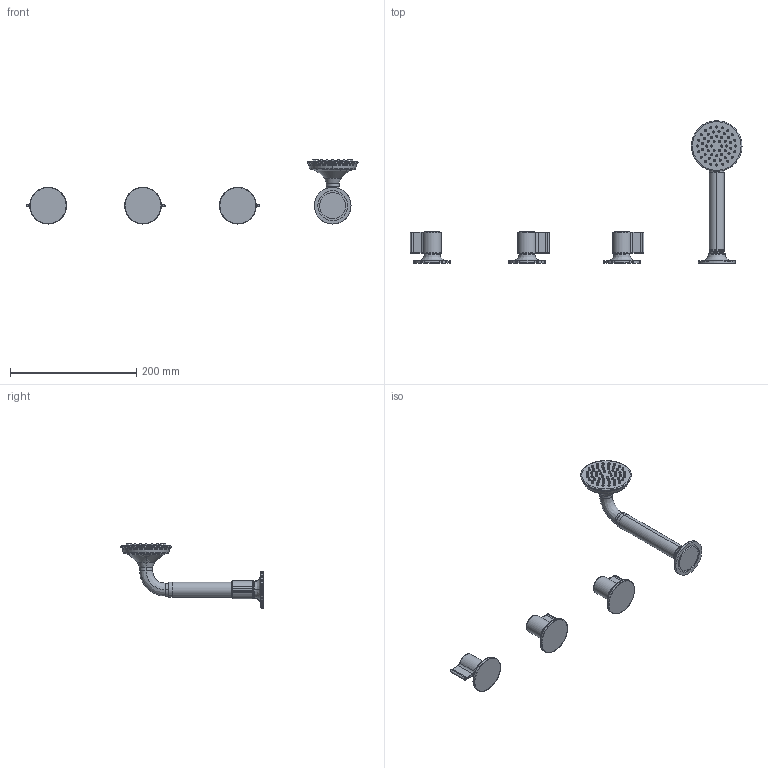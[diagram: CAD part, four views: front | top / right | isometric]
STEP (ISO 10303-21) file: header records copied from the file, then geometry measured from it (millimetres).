
FILE_DESCRIPTION(('STEP AP214'),'2;1');
FILE_NAME('DIS_3D_J567.stp','2025-05-07T15:10:18',(''),(''),'2015.2.119','THINKDESIGN','');
FILE_SCHEMA(('AUTOMOTIVE_DESIGN'));
Length unit declared in the file: millimetre
Products named in the file (1): top
Bounding box: 525 x 225.25 x 101.31 mm (x, y, z)
Volume: 303776.5 mm3; surface area: 74641 mm2
Topology: 6 solids, 6 shells, 1078 faces, 4043 edges, 3078 vertices
Faces by surface type: bspline 710, plane 184, cylinder 184
Entity records: 92071 total; most frequent: CARTESIAN_POINT 49607, ORIENTED_EDGE 7976, DIRECTION 6305, EDGE_CURVE 3988, VERTEX_POINT 3072, AXIS2_PLACEMENT_3D 2844, CIRCLE 2475, EDGE_LOOP 1228
